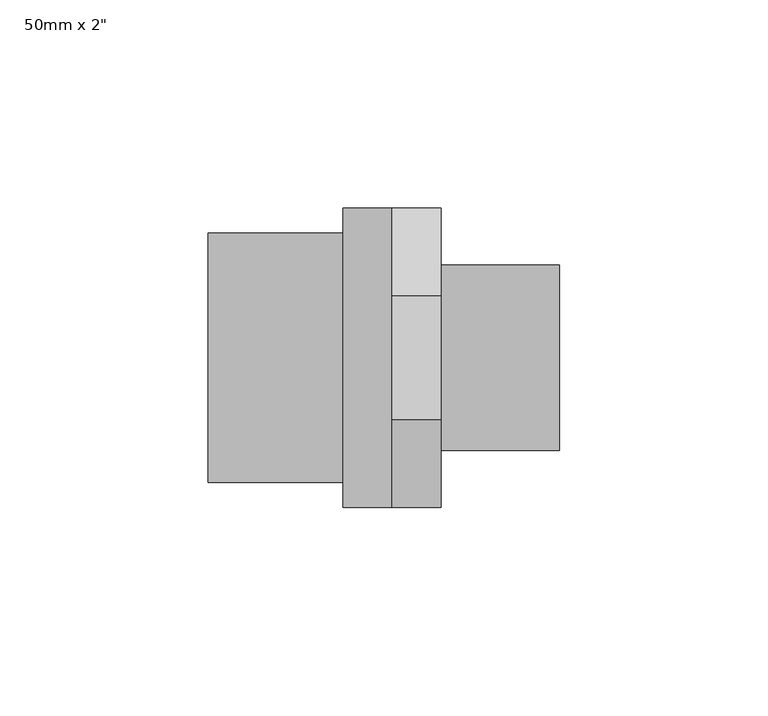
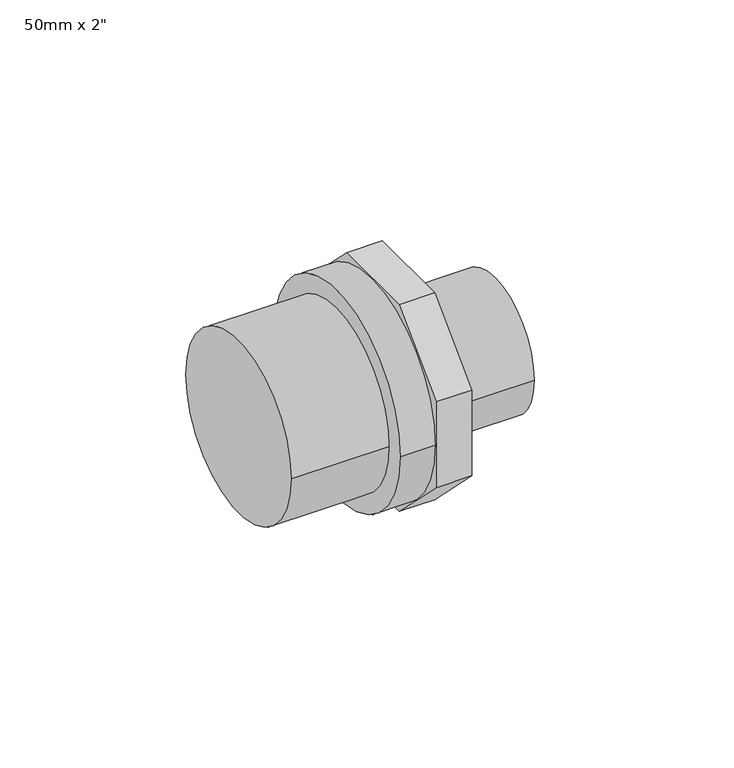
"""IFC4 building model written with IfcOpenShell, lengths in millimetres: pipe fitting geometry."""

from ifc_helpers import new_model, si_unit, point, frame, origin, origin_2d, place, context, project, spatial, polyline, circle_curve, trimmed, segment, composite_curve, outline, extrude, source, transform, mapped, element, save


def pipe_fitting_3de398c1(model_context):
    return source(origin(), model_context, "Body", "SweptSolid", [
        extrude(outline(composite_curve([segment(trimmed(circle_curve(origin_2d(), 22.225), [point((-22.225, 0.0))], [point((22.225, 0.0))], False, "CARTESIAN"), True, "CONTINUOUS"), segment(trimmed(circle_curve(origin_2d(), 22.225), [point((22.225, 0.0))], [point((-22.225, 0.0))], False, "CARTESIAN"), True, "CONTINUOUS")], self_intersect=False)), frame((39.75, 0.0, 0.0), z_axis=(1.0, 0.0, 0.0), x_axis=(0.0, 1.0, 0.0)), (0.0, 0.0, 1.0), 28.5),
        extrude(outline(polyline([(14.9116882, 36.0), (36.0, 14.9116882), (36.0, -14.9116882), (14.9116882, -36.0), (-14.9116882, -36.0), (-36.0, -14.9116882), (-36.0, 14.9116882), (-14.9116882, 36.0), (14.9116882, 36.0)])), frame((28.0, 0.0, 0.0), z_axis=(1.0, 0.0, 0.0), x_axis=(0.0, 1.0, 0.0)), (0.0, 0.0, 1.0), 11.75),
        extrude(outline(composite_curve([segment(trimmed(circle_curve(origin_2d(), 36.0), [point((-36.0, 0.0))], [point((36.0, 0.0))], False, "CARTESIAN"), True, "CONTINUOUS"), segment(trimmed(circle_curve(origin_2d(), 36.0), [point((36.0, 0.0))], [point((-36.0, 0.0))], False, "CARTESIAN"), True, "CONTINUOUS")], self_intersect=False)), frame((16.25, 0.0, 0.0), z_axis=(1.0, 0.0, 0.0), x_axis=(0.0, 1.0, 0.0)), (0.0, 0.0, 1.0), 11.75),
        extrude(outline(composite_curve([segment(trimmed(circle_curve(origin_2d(), 30.0), [point((-30.0, 0.0))], [point((30.0, 0.0))], False, "CARTESIAN"), True, "CONTINUOUS"), segment(trimmed(circle_curve(origin_2d(), 30.0), [point((30.0, 0.0))], [point((-30.0, 0.0))], False, "CARTESIAN"), True, "CONTINUOUS")], self_intersect=False)), frame((-16.25, 0.0, 0.0), z_axis=(1.0, 0.0, 0.0), x_axis=(0.0, 1.0, 0.0)), (0.0, 0.0, 1.0), 32.5),
    ])


if __name__ == "__main__":
    model = new_model("IFC4")
    model_context = context("Model", 3, world=origin())
    ifc_project = project(units=[si_unit("LENGTHUNIT", "METRE", prefix="MILLI")], contexts=[model_context])
    site = spatial("IfcSite", under=ifc_project)
    building = spatial("IfcBuilding", under=site)
    placement = place(None, origin())
    pipe_fitting_shape = pipe_fitting_3de398c1(model_context)
    element("IfcPipeFitting", 1, ObjectType="PipeFitting_HTA_CPVC_AdaptorNipplesB : 50mm x 2\"", at=placement, inside=building, context=model_context, shape_type="MappedRepresentation", body=[
        mapped(pipe_fitting_shape, transform((0.0, 0.0, 0.0), x_axis=(1.0, 0.0, 0.0), y_axis=(0.0, 1.0, 0.0), z_axis=(0.0, 0.0, 1.0))),
    ])
    save(model, "model.ifc")
